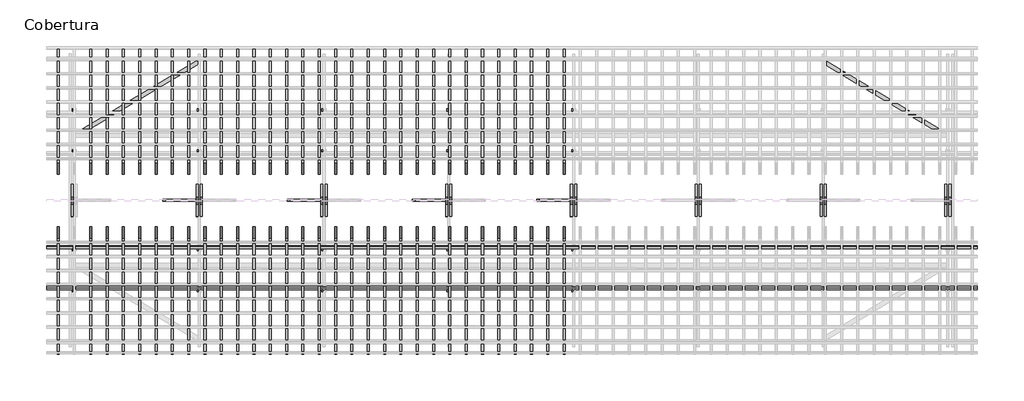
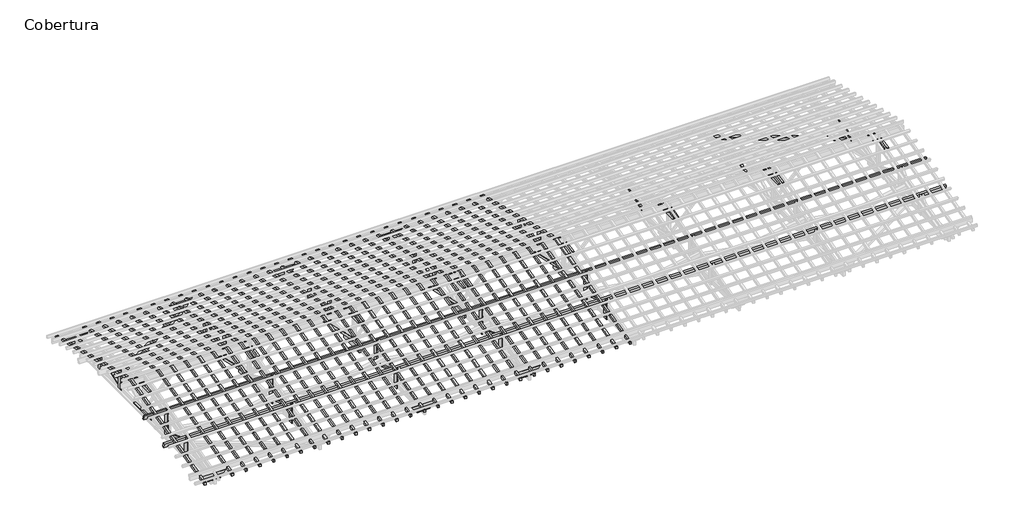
# One storey, part 1 of 3: 89 proxies.
"""IFC4 building model written with IfcOpenShell, lengths in millimetres."""

from ifc_helpers import new_model, si_unit, origin, place, context, project, spatial, transform, mapped, element, save
from components import generic_models_e5331721, generic_models_344d9f8f, generic_models_fe819298, generic_models_77e6f278, generic_models_3f94ce6d, generic_models_1c750111, generic_models_3c80b7b9, generic_models_bf8e60b2, generic_models_a631e91c, generic_models_99e8bb6b, generic_models_5cceeb7a, generic_models_351bb814, generic_models_2b7d2ed7, generic_models_d626a42d, generic_models_94123360, generic_models_c853bdce, generic_models_8553a941, generic_models_49e64a29, generic_models_750aa1d1, generic_models_e6557282, generic_models_4b42bfc0, generic_models_51b011b0, generic_models_0c30a77b, generic_models_7c653e9b, generic_models_3cbeaaff, generic_models_c57cda05, generic_models_764a092e, generic_models_9295ec12, generic_models_5ad78916, generic_models_6cd86b28, generic_models_2aba8acb, generic_models_5e8edf85, generic_models_a9074549, generic_models_1498e869, generic_models_20128fe8, generic_models_3a9fed07, generic_models_ccca3100, generic_models_44bb2ba4, generic_models_aa6c6cb6

model = new_model("IFC4")

# Units and contexts
model_context = context("Model", 3, world=origin())
ifc_project = project(units=[si_unit("LENGTHUNIT", "METRE", prefix="MILLI")], contexts=[model_context])

# Site, building, storey
site = spatial("IfcSite", under=ifc_project)
building = spatial("IfcBuilding", under=site)
storey = spatial("IfcBuildingStorey", under=building, Name="Cobertura", Elevation=3000.0)

# Proxies
placement = place(None, origin())
generic_models_shape = generic_models_e5331721(model_context)
element("IfcBuildingElementProxy", 1, Name="Modelos genéricos 4 : Modelos genéricos 3", ObjectType="Modelos genéricos 4 : Modelos genéricos 3", at=placement, inside=storey, context=model_context, shape_type="MappedRepresentation", body=[
    mapped(generic_models_shape, transform((-57000.0, 0.0, 0.0), x_axis=(1.0, 0.0, 0.0), y_axis=(0.0, 1.0, 0.0), z_axis=(0.0, 0.0, 1.0))),
])
generic_models_2_shape = generic_models_344d9f8f(model_context)
element("IfcBuildingElementProxy", 2, Name="Modelos genéricos 10 : Modelos genéricos 9", ObjectType="Modelos genéricos 10 : Modelos genéricos 9", at=placement, inside=storey, context=model_context, shape_type="MappedRepresentation", body=[
    mapped(generic_models_2_shape, transform((-57000.0, 5.0, 0.0), x_axis=(1.0, 0.0, 0.0), y_axis=(0.0, 1.0, 0.0), z_axis=(0.0, 0.0, 1.0))),
])
generic_models_3_shape = generic_models_fe819298(model_context)
element("IfcBuildingElementProxy", 3, Name="Modelos genéricos 14 : Modelos genéricos 14", ObjectType="Modelos genéricos 14 : Modelos genéricos 14", at=placement, inside=storey, context=model_context, shape_type="MappedRepresentation", body=[
    mapped(generic_models_3_shape, transform((0.0, -30.0, 0.0), x_axis=(1.0, 0.0, 0.0), y_axis=(0.0, 1.0, 0.0), z_axis=(0.0, 0.0, 1.0))),
])
generic_models_4_shape = generic_models_77e6f278(model_context)
element("IfcBuildingElementProxy", 4, Name="Modelos genéricos 15 : Modelos genéricos 14", ObjectType="Modelos genéricos 15 : Modelos genéricos 14", at=placement, inside=storey, context=model_context, shape_type="MappedRepresentation", body=[
    mapped(generic_models_4_shape, transform((0.0, -30.0, 0.0), x_axis=(1.0, 0.0, 0.0), y_axis=(0.0, 1.0, 0.0), z_axis=(0.0, 0.0, 1.0))),
])
generic_models_5_shape = generic_models_3f94ce6d(model_context)
element("IfcBuildingElementProxy", 5, Name="Modelos genéricos 7 : Modelos genéricos 5", ObjectType="Modelos genéricos 7 : Modelos genéricos 5", at=placement, inside=storey, context=model_context, shape_type="MappedRepresentation", body=[
    mapped(generic_models_5_shape, transform((-57000.0, 0.0, 0.0), x_axis=(1.0, 0.0, 0.0), y_axis=(0.0, 1.0, 0.0), z_axis=(0.0, 0.0, 1.0))),
])
generic_models_6_shape = generic_models_1c750111(model_context)
element("IfcBuildingElementProxy", 6, Name="Modelos genéricos 8 : Modelos genéricos 5", ObjectType="Modelos genéricos 8 : Modelos genéricos 5", at=placement, inside=storey, context=model_context, shape_type="MappedRepresentation", body=[
    mapped(generic_models_6_shape, transform((-57000.0, 0.0, 0.0), x_axis=(1.0, 0.0, 0.0), y_axis=(0.0, 1.0, 0.0), z_axis=(0.0, 0.0, 1.0))),
])
generic_models_7_shape = generic_models_3c80b7b9(model_context)
element("IfcBuildingElementProxy", 7, Name="Modelos genéricos 20 : Modelos genéricos 18", ObjectType="Modelos genéricos 20 : Modelos genéricos 18", at=placement, inside=storey, context=model_context, shape_type="MappedRepresentation", body=[
    mapped(generic_models_7_shape, transform((-57000.0, 0.0, 0.0), x_axis=(1.0, 0.0, 0.0), y_axis=(0.0, 1.0, 0.0), z_axis=(0.0, 0.0, 1.0))),
])
generic_models_8_shape = generic_models_bf8e60b2(model_context)
element("IfcBuildingElementProxy", 8, Name="Modelos genéricos 21 : Modelos genéricos 19", ObjectType="Modelos genéricos 21 : Modelos genéricos 19", at=placement, inside=storey, context=model_context, shape_type="MappedRepresentation", body=[
    mapped(generic_models_8_shape, transform((-57000.0, 0.0, 0.0), x_axis=(1.0, 0.0, 0.0), y_axis=(0.0, 1.0, 0.0), z_axis=(0.0, 0.0, 1.0))),
])
element("IfcBuildingElementProxy", 9, Name="Modelos genéricos 36 : Modelos genéricos 9", ObjectType="Modelos genéricos 36 : Modelos genéricos 9", at=placement, inside=storey, context=model_context, shape_type="MappedRepresentation", body=[
    mapped(generic_models_2_shape, transform((-53350.0, 5.0, 0.0), x_axis=(1.0, 0.0, 0.0), y_axis=(0.0, 1.0, 0.0), z_axis=(0.0, 0.0, 1.0))),
])
generic_models_9_shape = generic_models_a631e91c(model_context)
element("IfcBuildingElementProxy", 10, Name="Modelos genéricos 37 : Modelos genéricos 14", ObjectType="Modelos genéricos 37 : Modelos genéricos 14", at=placement, inside=storey, context=model_context, shape_type="MappedRepresentation", body=[
    mapped(generic_models_9_shape, transform((0.0, -30.0, 0.0), x_axis=(1.0, 0.0, 0.0), y_axis=(0.0, 1.0, 0.0), z_axis=(0.0, 0.0, 1.0))),
])
generic_models_10_shape = generic_models_99e8bb6b(model_context)
element("IfcBuildingElementProxy", 11, Name="Modelos genéricos 38 : Modelos genéricos 14", ObjectType="Modelos genéricos 38 : Modelos genéricos 14", at=placement, inside=storey, context=model_context, shape_type="MappedRepresentation", body=[
    mapped(generic_models_10_shape, transform((0.0, -30.0, 0.0), x_axis=(1.0, 0.0, 0.0), y_axis=(0.0, 1.0, 0.0), z_axis=(0.0, 0.0, 1.0))),
])
element("IfcBuildingElementProxy", 12, Name="Modelos genéricos 41 : Modelos genéricos 5", ObjectType="Modelos genéricos 41 : Modelos genéricos 5", at=placement, inside=storey, context=model_context, shape_type="MappedRepresentation", body=[
    mapped(generic_models_5_shape, transform((-53350.0, 0.0, 0.0), x_axis=(1.0, 0.0, 0.0), y_axis=(0.0, 1.0, 0.0), z_axis=(0.0, 0.0, 1.0))),
])
element("IfcBuildingElementProxy", 13, Name="Modelos genéricos 42 : Modelos genéricos 5", ObjectType="Modelos genéricos 42 : Modelos genéricos 5", at=placement, inside=storey, context=model_context, shape_type="MappedRepresentation", body=[
    mapped(generic_models_6_shape, transform((-53350.0, 0.0, 0.0), x_axis=(1.0, 0.0, 0.0), y_axis=(0.0, 1.0, 0.0), z_axis=(0.0, 0.0, 1.0))),
])
generic_models_11_shape = generic_models_5cceeb7a(model_context)
element("IfcBuildingElementProxy", 14, Name="Modelos genéricos 44 : Modelos genéricos 23", ObjectType="Modelos genéricos 44 : Modelos genéricos 23", at=placement, inside=storey, context=model_context, shape_type="MappedRepresentation", body=[
    mapped(generic_models_11_shape, transform((-53350.0, 0.0, 0.0), x_axis=(1.0, 0.0, 0.0), y_axis=(0.0, 1.0, 0.0), z_axis=(0.0, 0.0, 1.0))),
])
element("IfcBuildingElementProxy", 15, Name="Modelos genéricos 55 : Modelos genéricos 9", ObjectType="Modelos genéricos 55 : Modelos genéricos 9", at=placement, inside=storey, context=model_context, shape_type="MappedRepresentation", body=[
    mapped(generic_models_2_shape, transform((-49700.0, 5.0, 0.0), x_axis=(1.0, 0.0, 0.0), y_axis=(0.0, 1.0, 0.0), z_axis=(0.0, 0.0, 1.0))),
])
generic_models_12_shape = generic_models_351bb814(model_context)
element("IfcBuildingElementProxy", 16, Name="Modelos genéricos 56 : Modelos genéricos 14", ObjectType="Modelos genéricos 56 : Modelos genéricos 14", at=placement, inside=storey, context=model_context, shape_type="MappedRepresentation", body=[
    mapped(generic_models_12_shape, transform((0.0, -30.0, 0.0), x_axis=(1.0, 0.0, 0.0), y_axis=(0.0, 1.0, 0.0), z_axis=(0.0, 0.0, 1.0))),
])
generic_models_13_shape = generic_models_2b7d2ed7(model_context)
element("IfcBuildingElementProxy", 17, Name="Modelos genéricos 57 : Modelos genéricos 14", ObjectType="Modelos genéricos 57 : Modelos genéricos 14", at=placement, inside=storey, context=model_context, shape_type="MappedRepresentation", body=[
    mapped(generic_models_13_shape, transform((0.0, -30.0, 0.0), x_axis=(1.0, 0.0, 0.0), y_axis=(0.0, 1.0, 0.0), z_axis=(0.0, 0.0, 1.0))),
])
element("IfcBuildingElementProxy", 18, Name="Modelos genéricos 60 : Modelos genéricos 5", ObjectType="Modelos genéricos 60 : Modelos genéricos 5", at=placement, inside=storey, context=model_context, shape_type="MappedRepresentation", body=[
    mapped(generic_models_5_shape, transform((-49700.0, 0.0, 0.0), x_axis=(1.0, 0.0, 0.0), y_axis=(0.0, 1.0, 0.0), z_axis=(0.0, 0.0, 1.0))),
])
element("IfcBuildingElementProxy", 19, Name="Modelos genéricos 61 : Modelos genéricos 5", ObjectType="Modelos genéricos 61 : Modelos genéricos 5", at=placement, inside=storey, context=model_context, shape_type="MappedRepresentation", body=[
    mapped(generic_models_6_shape, transform((-49700.0, 0.0, 0.0), x_axis=(1.0, 0.0, 0.0), y_axis=(0.0, 1.0, 0.0), z_axis=(0.0, 0.0, 1.0))),
])
element("IfcBuildingElementProxy", 20, Name="Modelos genéricos 63 : Modelos genéricos 23", ObjectType="Modelos genéricos 63 : Modelos genéricos 23", at=placement, inside=storey, context=model_context, shape_type="MappedRepresentation", body=[
    mapped(generic_models_11_shape, transform((-49700.0, 0.0, 0.0), x_axis=(1.0, 0.0, 0.0), y_axis=(0.0, 1.0, 0.0), z_axis=(0.0, 0.0, 1.0))),
])
element("IfcBuildingElementProxy", 21, Name="Modelos genéricos 74 : Modelos genéricos 9", ObjectType="Modelos genéricos 74 : Modelos genéricos 9", at=placement, inside=storey, context=model_context, shape_type="MappedRepresentation", body=[
    mapped(generic_models_2_shape, transform((-46050.0, 5.0, 0.0), x_axis=(1.0, 0.0, 0.0), y_axis=(0.0, 1.0, 0.0), z_axis=(0.0, 0.0, 1.0))),
])
generic_models_14_shape = generic_models_d626a42d(model_context)
element("IfcBuildingElementProxy", 22, Name="Modelos genéricos 75 : Modelos genéricos 14", ObjectType="Modelos genéricos 75 : Modelos genéricos 14", at=placement, inside=storey, context=model_context, shape_type="MappedRepresentation", body=[
    mapped(generic_models_14_shape, transform((0.0, -30.0, 0.0), x_axis=(1.0, 0.0, 0.0), y_axis=(0.0, 1.0, 0.0), z_axis=(0.0, 0.0, 1.0))),
])
generic_models_15_shape = generic_models_94123360(model_context)
element("IfcBuildingElementProxy", 23, Name="Modelos genéricos 76 : Modelos genéricos 14", ObjectType="Modelos genéricos 76 : Modelos genéricos 14", at=placement, inside=storey, context=model_context, shape_type="MappedRepresentation", body=[
    mapped(generic_models_15_shape, transform((0.0, -30.0, 0.0), x_axis=(1.0, 0.0, 0.0), y_axis=(0.0, 1.0, 0.0), z_axis=(0.0, 0.0, 1.0))),
])
element("IfcBuildingElementProxy", 24, Name="Modelos genéricos 79 : Modelos genéricos 5", ObjectType="Modelos genéricos 79 : Modelos genéricos 5", at=placement, inside=storey, context=model_context, shape_type="MappedRepresentation", body=[
    mapped(generic_models_5_shape, transform((-46050.0, 0.0, 0.0), x_axis=(1.0, 0.0, 0.0), y_axis=(0.0, 1.0, 0.0), z_axis=(0.0, 0.0, 1.0))),
])
element("IfcBuildingElementProxy", 25, Name="Modelos genéricos 80 : Modelos genéricos 5", ObjectType="Modelos genéricos 80 : Modelos genéricos 5", at=placement, inside=storey, context=model_context, shape_type="MappedRepresentation", body=[
    mapped(generic_models_6_shape, transform((-46050.0, 0.0, 0.0), x_axis=(1.0, 0.0, 0.0), y_axis=(0.0, 1.0, 0.0), z_axis=(0.0, 0.0, 1.0))),
])
element("IfcBuildingElementProxy", 26, Name="Modelos genéricos 82 : Modelos genéricos 23", ObjectType="Modelos genéricos 82 : Modelos genéricos 23", at=placement, inside=storey, context=model_context, shape_type="MappedRepresentation", body=[
    mapped(generic_models_11_shape, transform((-46050.0, 0.0, 0.0), x_axis=(1.0, 0.0, 0.0), y_axis=(0.0, 1.0, 0.0), z_axis=(0.0, 0.0, 1.0))),
])
element("IfcBuildingElementProxy", 27, Name="Modelos genéricos 93 : Modelos genéricos 9", ObjectType="Modelos genéricos 93 : Modelos genéricos 9", at=placement, inside=storey, context=model_context, shape_type="MappedRepresentation", body=[
    mapped(generic_models_2_shape, transform((-42400.0, 5.0, 0.0), x_axis=(1.0, 0.0, 0.0), y_axis=(0.0, 1.0, 0.0), z_axis=(0.0, 0.0, 1.0))),
])
generic_models_16_shape = generic_models_c853bdce(model_context)
element("IfcBuildingElementProxy", 28, Name="Modelos genéricos 94 : Modelos genéricos 14", ObjectType="Modelos genéricos 94 : Modelos genéricos 14", at=placement, inside=storey, context=model_context, shape_type="MappedRepresentation", body=[
    mapped(generic_models_16_shape, transform((0.0, -30.0, 0.0), x_axis=(1.0, 0.0, 0.0), y_axis=(0.0, 1.0, 0.0), z_axis=(0.0, 0.0, 1.0))),
])
generic_models_17_shape = generic_models_8553a941(model_context)
element("IfcBuildingElementProxy", 29, Name="Modelos genéricos 95 : Modelos genéricos 14", ObjectType="Modelos genéricos 95 : Modelos genéricos 14", at=placement, inside=storey, context=model_context, shape_type="MappedRepresentation", body=[
    mapped(generic_models_17_shape, transform((0.0, -30.0, 0.0), x_axis=(1.0, 0.0, 0.0), y_axis=(0.0, 1.0, 0.0), z_axis=(0.0, 0.0, 1.0))),
])
element("IfcBuildingElementProxy", 30, Name="Modelos genéricos 98 : Modelos genéricos 5", ObjectType="Modelos genéricos 98 : Modelos genéricos 5", at=placement, inside=storey, context=model_context, shape_type="MappedRepresentation", body=[
    mapped(generic_models_5_shape, transform((-42400.0, 0.0, 0.0), x_axis=(1.0, 0.0, 0.0), y_axis=(0.0, 1.0, 0.0), z_axis=(0.0, 0.0, 1.0))),
])
element("IfcBuildingElementProxy", 31, Name="Modelos genéricos 99 : Modelos genéricos 5", ObjectType="Modelos genéricos 99 : Modelos genéricos 5", at=placement, inside=storey, context=model_context, shape_type="MappedRepresentation", body=[
    mapped(generic_models_6_shape, transform((-42400.0, 0.0, 0.0), x_axis=(1.0, 0.0, 0.0), y_axis=(0.0, 1.0, 0.0), z_axis=(0.0, 0.0, 1.0))),
])
element("IfcBuildingElementProxy", 32, Name="Modelos genéricos 101 : Modelos genéricos 23", ObjectType="Modelos genéricos 101 : Modelos genéricos 23", at=placement, inside=storey, context=model_context, shape_type="MappedRepresentation", body=[
    mapped(generic_models_11_shape, transform((-42400.0, 0.0, 0.0), x_axis=(1.0, 0.0, 0.0), y_axis=(0.0, 1.0, 0.0), z_axis=(0.0, 0.0, 1.0))),
])
generic_models_18_shape = generic_models_49e64a29(model_context)
element("IfcBuildingElementProxy", 33, Name="Modelos genéricos 114 : Modelos genéricos 14", ObjectType="Modelos genéricos 114 : Modelos genéricos 14", at=placement, inside=storey, context=model_context, shape_type="MappedRepresentation", body=[
    mapped(generic_models_18_shape, transform((0.0, -30.0, 0.0), x_axis=(1.0, 0.0, 0.0), y_axis=(0.0, 1.0, 0.0), z_axis=(0.0, 0.0, 1.0))),
])
generic_models_19_shape = generic_models_750aa1d1(model_context)
element("IfcBuildingElementProxy", 34, Name="Modelos genéricos 133 : Modelos genéricos 14", ObjectType="Modelos genéricos 133 : Modelos genéricos 14", at=placement, inside=storey, context=model_context, shape_type="MappedRepresentation", body=[
    mapped(generic_models_19_shape, transform((0.0, -30.0, 0.0), x_axis=(1.0, 0.0, 0.0), y_axis=(0.0, 1.0, 0.0), z_axis=(0.0, 0.0, 1.0))),
])
generic_models_20_shape = generic_models_e6557282(model_context)
element("IfcBuildingElementProxy", 35, Name="Modelos genéricos 153 : Modelos genéricos 14", ObjectType="Modelos genéricos 153 : Modelos genéricos 14", at=placement, inside=storey, context=model_context, shape_type="MappedRepresentation", body=[
    mapped(generic_models_20_shape, transform((0.0, -30.0, 0.0), x_axis=(1.0, 0.0, 0.0), y_axis=(0.0, 1.0, 0.0), z_axis=(0.0, 0.0, 1.0))),
])
element("IfcBuildingElementProxy", 36, Name="Modelos genéricos 3 : Modelos genéricos 3", ObjectType="Modelos genéricos 3 : Modelos genéricos 3", at=placement, inside=storey, context=model_context, shape_type="MappedRepresentation", body=[
    mapped(generic_models_shape, transform((-53350.210056, 0.0, 0.0), x_axis=(1.0, 0.0, 0.0), y_axis=(0.0, 1.0, 0.0), z_axis=(0.0, 0.0, 1.0))),
])
element("IfcBuildingElementProxy", 37, Name="Modelos genéricos 28 : Modelos genéricos 3", ObjectType="Modelos genéricos 28 : Modelos genéricos 3", at=placement, inside=storey, context=model_context, shape_type="MappedRepresentation", body=[
    mapped(generic_models_shape, transform((-49700.0, 0.0, 0.0), x_axis=(1.0, 0.0, 0.0), y_axis=(0.0, 1.0, 0.0), z_axis=(0.0, 0.0, 1.0))),
])
element("IfcBuildingElementProxy", 38, Name="Modelos genéricos 29 : Modelos genéricos 3", ObjectType="Modelos genéricos 29 : Modelos genéricos 3", at=placement, inside=storey, context=model_context, shape_type="MappedRepresentation", body=[
    mapped(generic_models_shape, transform((-46050.210056, 0.0, 0.0), x_axis=(1.0, 0.0, 0.0), y_axis=(0.0, 1.0, 0.0), z_axis=(0.0, 0.0, 1.0))),
])
generic_models_21_shape = generic_models_4b42bfc0(model_context)
element("IfcBuildingElementProxy", 39, Name="Modelos genéricos 85 : Modelos genéricos 3", ObjectType="Modelos genéricos 85 : Modelos genéricos 3", at=placement, inside=storey, context=model_context, shape_type="MappedRepresentation", body=[
    mapped(generic_models_21_shape, transform((-57000.0, 0.0, 0.0), x_axis=(1.0, 0.0, 0.0), y_axis=(0.0, 1.0, 0.0), z_axis=(0.0, 0.0, 1.0))),
])
element("IfcBuildingElementProxy", 40, Name="Modelos genéricos 104 : Modelos genéricos 3", ObjectType="Modelos genéricos 104 : Modelos genéricos 3", at=placement, inside=storey, context=model_context, shape_type="MappedRepresentation", body=[
    mapped(generic_models_21_shape, transform((-49700.0, 0.0, 0.0), x_axis=(1.0, 0.0, 0.0), y_axis=(0.0, 1.0, 0.0), z_axis=(0.0, 0.0, 1.0))),
])
element("IfcBuildingElementProxy", 41, Name="Modelos genéricos 105 : Modelos genéricos 3", ObjectType="Modelos genéricos 105 : Modelos genéricos 3", at=placement, inside=storey, context=model_context, shape_type="MappedRepresentation", body=[
    mapped(generic_models_21_shape, transform((-46050.210056, 0.0, 0.0), x_axis=(1.0, 0.0, 0.0), y_axis=(0.0, 1.0, 0.0), z_axis=(0.0, 0.0, 1.0))),
])
generic_models_22_shape = generic_models_51b011b0(model_context)
element("IfcBuildingElementProxy", 42, Name="Modelos genéricos 158 : Modelos genéricos 144", ObjectType="Modelos genéricos 158 : Modelos genéricos 144", at=placement, inside=storey, context=model_context, shape_type="MappedRepresentation", body=[
    mapped(generic_models_22_shape, transform((-57000.0, 0.0, 0.0), x_axis=(1.0, 0.0, 0.0), y_axis=(0.0, 1.0, 0.0), z_axis=(0.0, 0.0, 1.0))),
])
generic_models_23_shape = generic_models_0c30a77b(model_context)
element("IfcBuildingElementProxy", 43, Name="Modelos genéricos 160 : Modelos genéricos 144", ObjectType="Modelos genéricos 160 : Modelos genéricos 144", at=placement, inside=storey, context=model_context, shape_type="MappedRepresentation", body=[
    mapped(generic_models_23_shape, transform((-57000.0, 0.0, 0.0), x_axis=(1.0, 0.0, 0.0), y_axis=(0.0, 1.0, 0.0), z_axis=(0.0, 0.0, 1.0))),
])
generic_models_24_shape = generic_models_7c653e9b(model_context)
element("IfcBuildingElementProxy", 44, Name="Modelos genéricos 161 : Modelos genéricos 144", ObjectType="Modelos genéricos 161 : Modelos genéricos 144", at=placement, inside=storey, context=model_context, shape_type="MappedRepresentation", body=[
    mapped(generic_models_24_shape, transform((-57000.0, 0.0, 0.0), x_axis=(1.0, 0.0, 0.0), y_axis=(0.0, 1.0, 0.0), z_axis=(0.0, 0.0, 1.0))),
])
generic_models_25_shape = generic_models_3cbeaaff(model_context)
element("IfcBuildingElementProxy", 45, Name="Modelos genéricos 162 : Modelos genéricos 144", ObjectType="Modelos genéricos 162 : Modelos genéricos 144", at=placement, inside=storey, context=model_context, shape_type="MappedRepresentation", body=[
    mapped(generic_models_25_shape, transform((-57000.0, 0.0, 0.0), x_axis=(1.0, 0.0, 0.0), y_axis=(0.0, 1.0, 0.0), z_axis=(0.0, 0.0, 1.0))),
])
generic_models_26_shape = generic_models_c57cda05(model_context)
element("IfcBuildingElementProxy", 46, Name="Modelos genéricos 163 : Modelos genéricos 144", ObjectType="Modelos genéricos 163 : Modelos genéricos 144", at=placement, inside=storey, context=model_context, shape_type="MappedRepresentation", body=[
    mapped(generic_models_26_shape, transform((-57000.0, 0.0, 0.0), x_axis=(1.0, 0.0, 0.0), y_axis=(0.0, 1.0, 0.0), z_axis=(0.0, 0.0, 1.0))),
])
generic_models_27_shape = generic_models_764a092e(model_context)
element("IfcBuildingElementProxy", 47, Name="Modelos genéricos 164 : Modelos genéricos 144", ObjectType="Modelos genéricos 164 : Modelos genéricos 144", at=placement, inside=storey, context=model_context, shape_type="MappedRepresentation", body=[
    mapped(generic_models_27_shape, transform((-57000.0, 0.0, 0.0), x_axis=(1.0, 0.0, 0.0), y_axis=(0.0, 1.0, 0.0), z_axis=(0.0, 0.0, 1.0))),
])
generic_models_28_shape = generic_models_9295ec12(model_context)
element("IfcBuildingElementProxy", 48, Name="Modelos genéricos 165 : Modelos genéricos 144", ObjectType="Modelos genéricos 165 : Modelos genéricos 144", at=placement, inside=storey, context=model_context, shape_type="MappedRepresentation", body=[
    mapped(generic_models_28_shape, transform((-57000.0, 0.0, 0.0), x_axis=(1.0, 0.0, 0.0), y_axis=(0.0, 1.0, 0.0), z_axis=(0.0, 0.0, 1.0))),
])
generic_models_29_shape = generic_models_5ad78916(model_context)
element("IfcBuildingElementProxy", 49, Name="Modelos genéricos 166 : Modelos genéricos 144", ObjectType="Modelos genéricos 166 : Modelos genéricos 144", at=placement, inside=storey, context=model_context, shape_type="MappedRepresentation", body=[
    mapped(generic_models_29_shape, transform((-57000.0, 0.0, 0.0), x_axis=(1.0, 0.0, 0.0), y_axis=(0.0, 1.0, 0.0), z_axis=(0.0, 0.0, 1.0))),
])
generic_models_30_shape = generic_models_6cd86b28(model_context)
element("IfcBuildingElementProxy", 50, Name="Modelos genéricos 167 : Modelos genéricos 144", ObjectType="Modelos genéricos 167 : Modelos genéricos 144", at=placement, inside=storey, context=model_context, shape_type="MappedRepresentation", body=[
    mapped(generic_models_30_shape, transform((-57000.0, 0.0, 0.0), x_axis=(1.0, 0.0, 0.0), y_axis=(0.0, 1.0, 0.0), z_axis=(0.0, 0.0, 1.0))),
])
generic_models_31_shape = generic_models_2aba8acb(model_context)
element("IfcBuildingElementProxy", 51, Name="Modelos genéricos 168 : Modelos genéricos 144", ObjectType="Modelos genéricos 168 : Modelos genéricos 144", at=placement, inside=storey, context=model_context, shape_type="MappedRepresentation", body=[
    mapped(generic_models_31_shape, transform((-57000.0, 0.0, 0.0), x_axis=(1.0, 0.0, 0.0), y_axis=(0.0, 1.0, 0.0), z_axis=(0.0, 0.0, 1.0))),
])
generic_models_32_shape = generic_models_5e8edf85(model_context)
element("IfcBuildingElementProxy", 52, Name="Modelos genéricos 169 : Modelos genéricos 144", ObjectType="Modelos genéricos 169 : Modelos genéricos 144", at=placement, inside=storey, context=model_context, shape_type="MappedRepresentation", body=[
    mapped(generic_models_32_shape, transform((-57000.0, 0.0, 0.0), x_axis=(1.0, 0.0, 0.0), y_axis=(0.0, 1.0, 0.0), z_axis=(0.0, 0.0, 1.0))),
])
generic_models_33_shape = generic_models_a9074549(model_context)
element("IfcBuildingElementProxy", 53, Name="Modelos genéricos 170 : Modelos genéricos 144", ObjectType="Modelos genéricos 170 : Modelos genéricos 144", at=placement, inside=storey, context=model_context, shape_type="MappedRepresentation", body=[
    mapped(generic_models_33_shape, transform((-57000.0, 0.0, 0.0), x_axis=(1.0, 0.0, 0.0), y_axis=(0.0, 1.0, 0.0), z_axis=(0.0, 0.0, 1.0))),
])
generic_models_34_shape = generic_models_1498e869(model_context)
element("IfcBuildingElementProxy", 54, Name="Modelos genéricos 171 : Modelos genéricos 144", ObjectType="Modelos genéricos 171 : Modelos genéricos 144", at=placement, inside=storey, context=model_context, shape_type="MappedRepresentation", body=[
    mapped(generic_models_34_shape, transform((-57000.0, 0.0, 0.0), x_axis=(1.0, 0.0, 0.0), y_axis=(0.0, 1.0, 0.0), z_axis=(0.0, 0.0, 1.0))),
])
generic_models_35_shape = generic_models_20128fe8(model_context)
element("IfcBuildingElementProxy", 55, Name="Modelos genéricos 172 : Modelos genéricos 144", ObjectType="Modelos genéricos 172 : Modelos genéricos 144", at=placement, inside=storey, context=model_context, shape_type="MappedRepresentation", body=[
    mapped(generic_models_35_shape, transform((-57000.0, 0.0, 0.0), x_axis=(1.0, 0.0, 0.0), y_axis=(0.0, 1.0, 0.0), z_axis=(0.0, 0.0, 1.0))),
])
generic_models_36_shape = generic_models_3a9fed07(model_context)
element("IfcBuildingElementProxy", 56, Name="Modelos genéricos 173 : Modelos genéricos 144", ObjectType="Modelos genéricos 173 : Modelos genéricos 144", at=placement, inside=storey, context=model_context, shape_type="MappedRepresentation", body=[
    mapped(generic_models_36_shape, transform((-57000.0, 0.0, 0.0), x_axis=(1.0, 0.0, 0.0), y_axis=(0.0, 1.0, 0.0), z_axis=(0.0, 0.0, 1.0))),
])
generic_models_37_shape = generic_models_ccca3100(model_context)
element("IfcBuildingElementProxy", 57, Name="Modelos genéricos 176 : Modelos genéricos 174", ObjectType="Modelos genéricos 176 : Modelos genéricos 174", at=placement, inside=storey, context=model_context, shape_type="MappedRepresentation", body=[
    mapped(generic_models_37_shape, transform((-57000.0, 0.0, 0.0), x_axis=(1.0, 0.0, 0.0), y_axis=(0.0, 1.0, 0.0), z_axis=(0.0, 0.0, 1.0))),
])
generic_models_38_shape = generic_models_44bb2ba4(model_context)
element("IfcBuildingElementProxy", 58, Name="Modelos genéricos 259 : Modelos genéricos 259", ObjectType="Modelos genéricos 259 : Modelos genéricos 259", at=placement, inside=storey, context=model_context, shape_type="MappedRepresentation", body=[
    mapped(generic_models_38_shape, transform((0.0, -15.0, 0.0), x_axis=(1.0, 0.0, 0.0), y_axis=(0.0, 1.0, 0.0), z_axis=(0.0, 0.0, 1.0))),
])
generic_models_39_shape = generic_models_aa6c6cb6(model_context)
element("IfcBuildingElementProxy", 59, Name="Modelos genéricos 261 : Modelos genéricos 259", ObjectType="Modelos genéricos 261 : Modelos genéricos 259", at=placement, inside=storey, context=model_context, shape_type="MappedRepresentation", body=[
    mapped(generic_models_39_shape, transform((-20.0, -15.0, 0.0), x_axis=(1.0, 0.0, 0.0), y_axis=(0.0, 1.0, 0.0), z_axis=(0.0, 0.0, 1.0))),
])
element("IfcBuildingElementProxy", 60, Name="Modelos genéricos 271 : Modelos genéricos 174", ObjectType="Modelos genéricos 271 : Modelos genéricos 174", at=placement, inside=storey, context=model_context, shape_type="MappedRepresentation", body=[
    mapped(generic_models_37_shape, transform((-56522.5233645, 0.0, 0.0), x_axis=(1.0, 0.0, 0.0), y_axis=(0.0, 1.0, 0.0), z_axis=(0.0, 0.0, 1.0))),
])
element("IfcBuildingElementProxy", 61, Name="Modelos genéricos 272 : Modelos genéricos 174", ObjectType="Modelos genéricos 272 : Modelos genéricos 174", at=placement, inside=storey, context=model_context, shape_type="MappedRepresentation", body=[
    mapped(generic_models_37_shape, transform((-56045.046729, 0.0, 0.0), x_axis=(1.0, 0.0, 0.0), y_axis=(0.0, 1.0, 0.0), z_axis=(0.0, 0.0, 1.0))),
])
element("IfcBuildingElementProxy", 62, Name="Modelos genéricos 273 : Modelos genéricos 174", ObjectType="Modelos genéricos 273 : Modelos genéricos 174", at=placement, inside=storey, context=model_context, shape_type="MappedRepresentation", body=[
    mapped(generic_models_37_shape, transform((-55567.5700935, 0.0, 0.0), x_axis=(1.0, 0.0, 0.0), y_axis=(0.0, 1.0, 0.0), z_axis=(0.0, 0.0, 1.0))),
])
element("IfcBuildingElementProxy", 63, Name="Modelos genéricos 274 : Modelos genéricos 174", ObjectType="Modelos genéricos 274 : Modelos genéricos 174", at=placement, inside=storey, context=model_context, shape_type="MappedRepresentation", body=[
    mapped(generic_models_37_shape, transform((-55090.0934579, 0.0, 0.0), x_axis=(1.0, 0.0, 0.0), y_axis=(0.0, 1.0, 0.0), z_axis=(0.0, 0.0, 1.0))),
])
element("IfcBuildingElementProxy", 64, Name="Modelos genéricos 275 : Modelos genéricos 174", ObjectType="Modelos genéricos 275 : Modelos genéricos 174", at=placement, inside=storey, context=model_context, shape_type="MappedRepresentation", body=[
    mapped(generic_models_37_shape, transform((-54612.6168224, 0.0, 0.0), x_axis=(1.0, 0.0, 0.0), y_axis=(0.0, 1.0, 0.0), z_axis=(0.0, 0.0, 1.0))),
])
element("IfcBuildingElementProxy", 65, Name="Modelos genéricos 276 : Modelos genéricos 174", ObjectType="Modelos genéricos 276 : Modelos genéricos 174", at=placement, inside=storey, context=model_context, shape_type="MappedRepresentation", body=[
    mapped(generic_models_37_shape, transform((-54135.1401869, 0.0, 0.0), x_axis=(1.0, 0.0, 0.0), y_axis=(0.0, 1.0, 0.0), z_axis=(0.0, 0.0, 1.0))),
])
element("IfcBuildingElementProxy", 66, Name="Modelos genéricos 277 : Modelos genéricos 174", ObjectType="Modelos genéricos 277 : Modelos genéricos 174", at=placement, inside=storey, context=model_context, shape_type="MappedRepresentation", body=[
    mapped(generic_models_37_shape, transform((-53657.6635514, 0.0, 0.0), x_axis=(1.0, 0.0, 0.0), y_axis=(0.0, 1.0, 0.0), z_axis=(0.0, 0.0, 1.0))),
])
element("IfcBuildingElementProxy", 67, Name="Modelos genéricos 174 : Modelos genéricos 174", ObjectType="Modelos genéricos 174 : Modelos genéricos 174", at=placement, inside=storey, context=model_context, shape_type="MappedRepresentation", body=[
    mapped(generic_models_37_shape, transform((-53180.1869159, 0.0, 0.0), x_axis=(1.0, 0.0, 0.0), y_axis=(0.0, 1.0, 0.0), z_axis=(0.0, 0.0, 1.0))),
])
element("IfcBuildingElementProxy", 68, Name="Modelos genéricos 177 : Modelos genéricos 174", ObjectType="Modelos genéricos 177 : Modelos genéricos 174", at=placement, inside=storey, context=model_context, shape_type="MappedRepresentation", body=[
    mapped(generic_models_37_shape, transform((-52702.7102804, 0.0, 0.0), x_axis=(1.0, 0.0, 0.0), y_axis=(0.0, 1.0, 0.0), z_axis=(0.0, 0.0, 1.0))),
])
element("IfcBuildingElementProxy", 69, Name="Modelos genéricos 178 : Modelos genéricos 174", ObjectType="Modelos genéricos 178 : Modelos genéricos 174", at=placement, inside=storey, context=model_context, shape_type="MappedRepresentation", body=[
    mapped(generic_models_37_shape, transform((-52225.2336449, 0.0, 0.0), x_axis=(1.0, 0.0, 0.0), y_axis=(0.0, 1.0, 0.0), z_axis=(0.0, 0.0, 1.0))),
])
element("IfcBuildingElementProxy", 70, Name="Modelos genéricos 179 : Modelos genéricos 174", ObjectType="Modelos genéricos 179 : Modelos genéricos 174", at=placement, inside=storey, context=model_context, shape_type="MappedRepresentation", body=[
    mapped(generic_models_37_shape, transform((-51747.7570093, 0.0, 0.0), x_axis=(1.0, 0.0, 0.0), y_axis=(0.0, 1.0, 0.0), z_axis=(0.0, 0.0, 1.0))),
])
element("IfcBuildingElementProxy", 71, Name="Modelos genéricos 180 : Modelos genéricos 174", ObjectType="Modelos genéricos 180 : Modelos genéricos 174", at=placement, inside=storey, context=model_context, shape_type="MappedRepresentation", body=[
    mapped(generic_models_37_shape, transform((-51270.2803738, 0.0, 0.0), x_axis=(1.0, 0.0, 0.0), y_axis=(0.0, 1.0, 0.0), z_axis=(0.0, 0.0, 1.0))),
])
element("IfcBuildingElementProxy", 72, Name="Modelos genéricos 181 : Modelos genéricos 174", ObjectType="Modelos genéricos 181 : Modelos genéricos 174", at=placement, inside=storey, context=model_context, shape_type="MappedRepresentation", body=[
    mapped(generic_models_37_shape, transform((-50792.8037383, 0.0, 0.0), x_axis=(1.0, 0.0, 0.0), y_axis=(0.0, 1.0, 0.0), z_axis=(0.0, 0.0, 1.0))),
])
element("IfcBuildingElementProxy", 73, Name="Modelos genéricos 182 : Modelos genéricos 174", ObjectType="Modelos genéricos 182 : Modelos genéricos 174", at=placement, inside=storey, context=model_context, shape_type="MappedRepresentation", body=[
    mapped(generic_models_37_shape, transform((-50315.3271028, 0.0, 0.0), x_axis=(1.0, 0.0, 0.0), y_axis=(0.0, 1.0, 0.0), z_axis=(0.0, 0.0, 1.0))),
])
element("IfcBuildingElementProxy", 74, Name="Modelos genéricos 183 : Modelos genéricos 174", ObjectType="Modelos genéricos 183 : Modelos genéricos 174", at=placement, inside=storey, context=model_context, shape_type="MappedRepresentation", body=[
    mapped(generic_models_37_shape, transform((-49837.8504673, 0.0, 0.0), x_axis=(1.0, 0.0, 0.0), y_axis=(0.0, 1.0, 0.0), z_axis=(0.0, 0.0, 1.0))),
])
element("IfcBuildingElementProxy", 75, Name="Modelos genéricos 184 : Modelos genéricos 174", ObjectType="Modelos genéricos 184 : Modelos genéricos 174", at=placement, inside=storey, context=model_context, shape_type="MappedRepresentation", body=[
    mapped(generic_models_37_shape, transform((-49360.3738318, 0.0, 0.0), x_axis=(1.0, 0.0, 0.0), y_axis=(0.0, 1.0, 0.0), z_axis=(0.0, 0.0, 1.0))),
])
element("IfcBuildingElementProxy", 76, Name="Modelos genéricos 185 : Modelos genéricos 174", ObjectType="Modelos genéricos 185 : Modelos genéricos 174", at=placement, inside=storey, context=model_context, shape_type="MappedRepresentation", body=[
    mapped(generic_models_37_shape, transform((-48882.8971963, 0.0, 0.0), x_axis=(1.0, 0.0, 0.0), y_axis=(0.0, 1.0, 0.0), z_axis=(0.0, 0.0, 1.0))),
])
element("IfcBuildingElementProxy", 77, Name="Modelos genéricos 186 : Modelos genéricos 174", ObjectType="Modelos genéricos 186 : Modelos genéricos 174", at=placement, inside=storey, context=model_context, shape_type="MappedRepresentation", body=[
    mapped(generic_models_37_shape, transform((-48405.4205607, 0.0, 0.0), x_axis=(1.0, 0.0, 0.0), y_axis=(0.0, 1.0, 0.0), z_axis=(0.0, 0.0, 1.0))),
])
element("IfcBuildingElementProxy", 78, Name="Modelos genéricos 187 : Modelos genéricos 174", ObjectType="Modelos genéricos 187 : Modelos genéricos 174", at=placement, inside=storey, context=model_context, shape_type="MappedRepresentation", body=[
    mapped(generic_models_37_shape, transform((-47927.9439252, 0.0, 0.0), x_axis=(1.0, 0.0, 0.0), y_axis=(0.0, 1.0, 0.0), z_axis=(0.0, 0.0, 1.0))),
])
element("IfcBuildingElementProxy", 79, Name="Modelos genéricos 188 : Modelos genéricos 174", ObjectType="Modelos genéricos 188 : Modelos genéricos 174", at=placement, inside=storey, context=model_context, shape_type="MappedRepresentation", body=[
    mapped(generic_models_37_shape, transform((-47450.4672897, 0.0, 0.0), x_axis=(1.0, 0.0, 0.0), y_axis=(0.0, 1.0, 0.0), z_axis=(0.0, 0.0, 1.0))),
])
element("IfcBuildingElementProxy", 80, Name="Modelos genéricos 189 : Modelos genéricos 174", ObjectType="Modelos genéricos 189 : Modelos genéricos 174", at=placement, inside=storey, context=model_context, shape_type="MappedRepresentation", body=[
    mapped(generic_models_37_shape, transform((-46972.9906542, 0.0, 0.0), x_axis=(1.0, 0.0, 0.0), y_axis=(0.0, 1.0, 0.0), z_axis=(0.0, 0.0, 1.0))),
])
element("IfcBuildingElementProxy", 81, Name="Modelos genéricos 190 : Modelos genéricos 174", ObjectType="Modelos genéricos 190 : Modelos genéricos 174", at=placement, inside=storey, context=model_context, shape_type="MappedRepresentation", body=[
    mapped(generic_models_37_shape, transform((-46495.5140187, 0.0, 0.0), x_axis=(1.0, 0.0, 0.0), y_axis=(0.0, 1.0, 0.0), z_axis=(0.0, 0.0, 1.0))),
])
element("IfcBuildingElementProxy", 82, Name="Modelos genéricos 191 : Modelos genéricos 174", ObjectType="Modelos genéricos 191 : Modelos genéricos 174", at=placement, inside=storey, context=model_context, shape_type="MappedRepresentation", body=[
    mapped(generic_models_37_shape, transform((-46018.0373832, 0.0, 0.0), x_axis=(1.0, 0.0, 0.0), y_axis=(0.0, 1.0, 0.0), z_axis=(0.0, 0.0, 1.0))),
])
element("IfcBuildingElementProxy", 83, Name="Modelos genéricos 192 : Modelos genéricos 174", ObjectType="Modelos genéricos 192 : Modelos genéricos 174", at=placement, inside=storey, context=model_context, shape_type="MappedRepresentation", body=[
    mapped(generic_models_37_shape, transform((-45540.5607477, 0.0, 0.0), x_axis=(1.0, 0.0, 0.0), y_axis=(0.0, 1.0, 0.0), z_axis=(0.0, 0.0, 1.0))),
])
element("IfcBuildingElementProxy", 84, Name="Modelos genéricos 193 : Modelos genéricos 174", ObjectType="Modelos genéricos 193 : Modelos genéricos 174", at=placement, inside=storey, context=model_context, shape_type="MappedRepresentation", body=[
    mapped(generic_models_37_shape, transform((-45063.0841122, 0.0, 0.0), x_axis=(1.0, 0.0, 0.0), y_axis=(0.0, 1.0, 0.0), z_axis=(0.0, 0.0, 1.0))),
])
element("IfcBuildingElementProxy", 85, Name="Modelos genéricos 194 : Modelos genéricos 174", ObjectType="Modelos genéricos 194 : Modelos genéricos 174", at=placement, inside=storey, context=model_context, shape_type="MappedRepresentation", body=[
    mapped(generic_models_37_shape, transform((-44585.6074766, 0.0, 0.0), x_axis=(1.0, 0.0, 0.0), y_axis=(0.0, 1.0, 0.0), z_axis=(0.0, 0.0, 1.0))),
])
element("IfcBuildingElementProxy", 86, Name="Modelos genéricos 195 : Modelos genéricos 174", ObjectType="Modelos genéricos 195 : Modelos genéricos 174", at=placement, inside=storey, context=model_context, shape_type="MappedRepresentation", body=[
    mapped(generic_models_37_shape, transform((-44108.1308411, 0.0, 0.0), x_axis=(1.0, 0.0, 0.0), y_axis=(0.0, 1.0, 0.0), z_axis=(0.0, 0.0, 1.0))),
])
element("IfcBuildingElementProxy", 87, Name="Modelos genéricos 196 : Modelos genéricos 174", ObjectType="Modelos genéricos 196 : Modelos genéricos 174", at=placement, inside=storey, context=model_context, shape_type="MappedRepresentation", body=[
    mapped(generic_models_37_shape, transform((-43630.6542056, 0.0, 0.0), x_axis=(1.0, 0.0, 0.0), y_axis=(0.0, 1.0, 0.0), z_axis=(0.0, 0.0, 1.0))),
])
element("IfcBuildingElementProxy", 88, Name="Modelos genéricos 197 : Modelos genéricos 174", ObjectType="Modelos genéricos 197 : Modelos genéricos 174", at=placement, inside=storey, context=model_context, shape_type="MappedRepresentation", body=[
    mapped(generic_models_37_shape, transform((-43153.1775701, 0.0, 0.0), x_axis=(1.0, 0.0, 0.0), y_axis=(0.0, 1.0, 0.0), z_axis=(0.0, 0.0, 1.0))),
])
element("IfcBuildingElementProxy", 89, Name="Modelos genéricos 223 : Modelos genéricos 174", ObjectType="Modelos genéricos 223 : Modelos genéricos 174", at=placement, inside=storey, context=model_context, shape_type="MappedRepresentation", body=[
    mapped(generic_models_37_shape, transform((-57954.953271, 0.0, 0.0), x_axis=(1.0, 0.0, 0.0), y_axis=(0.0, 1.0, 0.0), z_axis=(0.0, 0.0, 1.0))),
])

save(model, "model.ifc")
